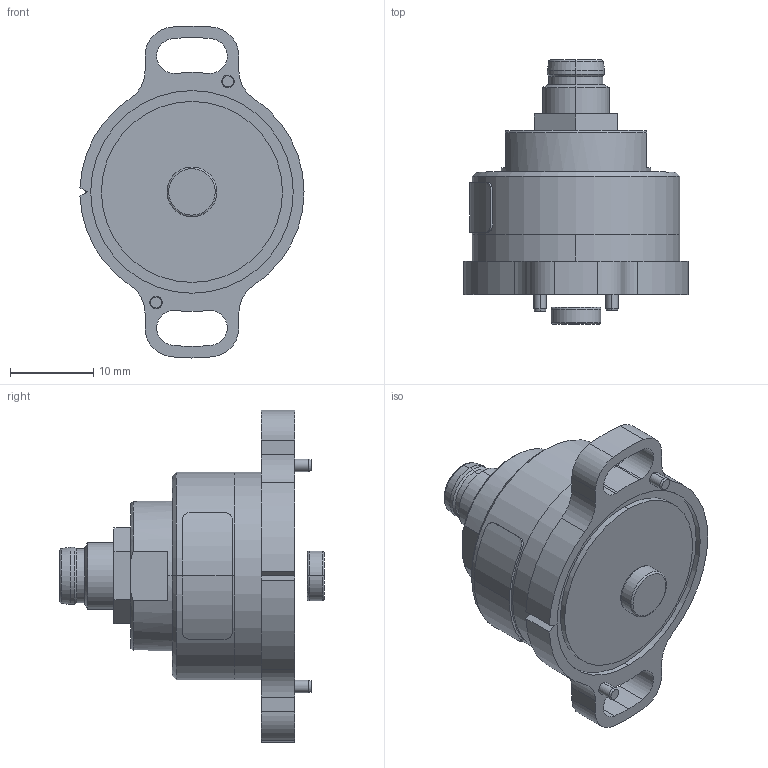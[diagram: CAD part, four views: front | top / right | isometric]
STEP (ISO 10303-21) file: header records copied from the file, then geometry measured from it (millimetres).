
FILE_DESCRIPTION (( 'STEP AP203' ), '1' );
FILE_NAME ('HTx Kit M8 P.STEP', '2022-07-29T10:29:36', ( '' ), ( '' ), 'SwSTEP 2.0', 'SolidWorks 2022', '' );
FILE_SCHEMA (( 'CONFIG_CONTROL_DESIGN' ));
Length unit declared in the file: millimetre
Products named in the file (1): HTx Kit M8 P
Bounding box: 26.99 x 31.8 x 39.98 mm (x, y, z)
Surface area: 3874.5 mm2 (no closed solid volume)
Topology: 0 solids, 15 shells, 155 faces, 403 edges, 255 vertices
Faces by surface type: cylinder 79, plane 37, bspline 19, cone 16, torus 4
Entity records: 5138 total; most frequent: CARTESIAN_POINT 1288, DIRECTION 860, ORIENTED_EDGE 725, EDGE_CURVE 387, AXIS2_PLACEMENT_3D 355, VERTEX_POINT 255, CIRCLE 218, EDGE_LOOP 173
